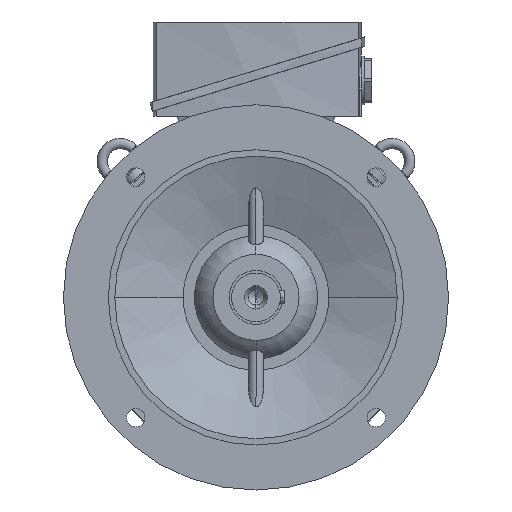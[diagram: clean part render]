
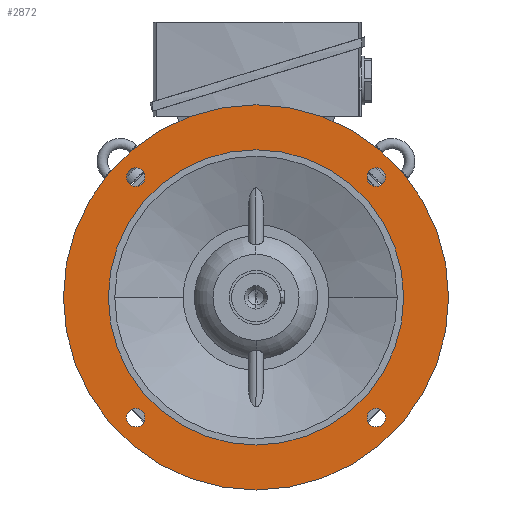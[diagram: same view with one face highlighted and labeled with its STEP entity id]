
A CAD part, left-side view. The second image highlights one B-rep face of the part: STEP entity #2872.
In plain terms, the highlighted planar face has unit normal (-1, 0, 0).
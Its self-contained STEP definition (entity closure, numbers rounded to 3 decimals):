
#2872=ADVANCED_FACE('',(#5811,#5812,#5813,#5814,#5815,#5816),#5817,.T.);
#5811=FACE_BOUND('',#8752,.T.);
#5812=FACE_BOUND('',#8753,.T.);
#5813=FACE_BOUND('',#8754,.T.);
#5814=FACE_BOUND('',#8755,.T.);
#5815=FACE_OUTER_BOUND('',#8756,.T.);
#5816=FACE_BOUND('',#8757,.T.);
#5817=PLANE('',#8758);
#8752=EDGE_LOOP('',(#17724,#17725));
#8753=EDGE_LOOP('',(#17726,#17727));
#8754=EDGE_LOOP('',(#17728,#17729));
#8755=EDGE_LOOP('',(#17730,#17731));
#8756=EDGE_LOOP('',(#17732,#17733));
#8757=EDGE_LOOP('',(#17734,#17735));
#8758=AXIS2_PLACEMENT_3D('',#17736,#17737,#17738);
#17724=ORIENTED_EDGE('',*,*,#21268,.T.);
#17725=ORIENTED_EDGE('',*,*,#18006,.T.);
#17726=ORIENTED_EDGE('',*,*,#21271,.T.);
#17727=ORIENTED_EDGE('',*,*,#18001,.T.);
#17728=ORIENTED_EDGE('',*,*,#21274,.T.);
#17729=ORIENTED_EDGE('',*,*,#17996,.T.);
#17730=ORIENTED_EDGE('',*,*,#21277,.T.);
#17731=ORIENTED_EDGE('',*,*,#17991,.T.);
#17732=ORIENTED_EDGE('',*,*,#17969,.F.);
#17733=ORIENTED_EDGE('',*,*,#21332,.F.);
#17734=ORIENTED_EDGE('',*,*,#17976,.T.);
#17735=ORIENTED_EDGE('',*,*,#21330,.T.);
#17736=CARTESIAN_POINT('',(-50.5,132.5,0.0));
#17737=DIRECTION('',(-1.0,0.0,0.0));
#17738=DIRECTION('',(0.0,-1.0,0.0));
#17969=EDGE_CURVE('',#21615,#21618,#21619,.T.);
#17976=EDGE_CURVE('',#21625,#21629,#21631,.T.);
#17991=EDGE_CURVE('',#21658,#21655,#21659,.T.);
#17996=EDGE_CURVE('',#21667,#21664,#21668,.T.);
#18001=EDGE_CURVE('',#21676,#21673,#21677,.T.);
#18006=EDGE_CURVE('',#21685,#21682,#21686,.T.);
#21268=EDGE_CURVE('',#21682,#21685,#26521,.T.);
#21271=EDGE_CURVE('',#21673,#21676,#26524,.T.);
#21274=EDGE_CURVE('',#21664,#21667,#26527,.T.);
#21277=EDGE_CURVE('',#21655,#21658,#26530,.T.);
#21330=EDGE_CURVE('',#21629,#21625,#26597,.T.);
#21332=EDGE_CURVE('',#21618,#21615,#26599,.T.);
#21615=VERTEX_POINT('',#27224);
#21618=VERTEX_POINT('',#27228);
#21619=CIRCLE('',#27229,150.0);
#21625=VERTEX_POINT('',#27236);
#21629=VERTEX_POINT('',#27241);
#21631=CIRCLE('',#27244,115.0);
#21655=VERTEX_POINT('',#27286);
#21658=VERTEX_POINT('',#27290);
#21659=CIRCLE('',#27291,7.25);
#21664=VERTEX_POINT('',#27297);
#21667=VERTEX_POINT('',#27301);
#21668=CIRCLE('',#27302,7.25);
#21673=VERTEX_POINT('',#27308);
#21676=VERTEX_POINT('',#27312);
#21677=CIRCLE('',#27313,7.25);
#21682=VERTEX_POINT('',#27319);
#21685=VERTEX_POINT('',#27323);
#21686=CIRCLE('',#27324,7.25);
#26521=CIRCLE('',#41371,7.25);
#26524=CIRCLE('',#41374,7.25);
#26527=CIRCLE('',#41377,7.25);
#26530=CIRCLE('',#41380,7.25);
#26597=CIRCLE('',#41521,115.0);
#26599=CIRCLE('',#41523,150.0);
#27224=CARTESIAN_POINT('',(-50.5,150.0,0.0));
#27228=CARTESIAN_POINT('',(-50.5,-150.0,0.));
#27229=AXIS2_PLACEMENT_3D('',#41699,#41700,#41701);
#27236=CARTESIAN_POINT('',(-50.5,115.0,0.0));
#27241=CARTESIAN_POINT('',(-50.5,-115.0,0.));
#27244=AXIS2_PLACEMENT_3D('',#41711,#41712,#41713);
#27286=CARTESIAN_POINT('',(-50.5,-98.818,98.818));
#27290=CARTESIAN_POINT('',(-50.5,-88.565,88.565));
#27291=AXIS2_PLACEMENT_3D('',#41739,#41740,#41741);
#27297=CARTESIAN_POINT('',(-50.5,98.818,98.818));
#27301=CARTESIAN_POINT('',(-50.5,88.565,88.565));
#27302=AXIS2_PLACEMENT_3D('',#41747,#41748,#41749);
#27308=CARTESIAN_POINT('',(-50.5,98.818,-98.818));
#27312=CARTESIAN_POINT('',(-50.5,88.565,-88.565));
#27313=AXIS2_PLACEMENT_3D('',#41755,#41756,#41757);
#27319=CARTESIAN_POINT('',(-50.5,-98.818,-98.818));
#27323=CARTESIAN_POINT('',(-50.5,-88.565,-88.565));
#27324=AXIS2_PLACEMENT_3D('',#41763,#41764,#41765);
#41371=AXIS2_PLACEMENT_3D('',#44721,#44722,#44723);
#41374=AXIS2_PLACEMENT_3D('',#44727,#44728,#44729);
#41377=AXIS2_PLACEMENT_3D('',#44733,#44734,#44735);
#41380=AXIS2_PLACEMENT_3D('',#44739,#44740,#44741);
#41521=AXIS2_PLACEMENT_3D('',#44783,#44784,#44785);
#41523=AXIS2_PLACEMENT_3D('',#44786,#44787,#44788);
#41699=CARTESIAN_POINT('',(-50.5,0.0,0.0));
#41700=DIRECTION('',(1.0,0.0,0.0));
#41701=DIRECTION('',(0.0,1.0,0.0));
#41711=CARTESIAN_POINT('',(-50.5,0.0,0.0));
#41712=DIRECTION('',(1.0,0.0,0.0));
#41713=DIRECTION('',(0.0,1.0,0.0));
#41739=CARTESIAN_POINT('',(-50.5,-93.692,93.692));
#41740=DIRECTION('',(1.0,0.0,-0.0));
#41741=DIRECTION('',(0.0,-0.707,0.707));
#41747=CARTESIAN_POINT('',(-50.5,93.692,93.692));
#41748=DIRECTION('',(1.0,0.0,-0.0));
#41749=DIRECTION('',(0.0,0.707,0.707));
#41755=CARTESIAN_POINT('',(-50.5,93.692,-93.692));
#41756=DIRECTION('',(1.0,-0.0,0.0));
#41757=DIRECTION('',(0.0,0.707,-0.707));
#41763=CARTESIAN_POINT('',(-50.5,-93.692,-93.692));
#41764=DIRECTION('',(1.0,0.0,0.0));
#41765=DIRECTION('',(0.0,-0.707,-0.707));
#44721=CARTESIAN_POINT('',(-50.5,-93.692,-93.692));
#44722=DIRECTION('',(1.0,0.0,0.0));
#44723=DIRECTION('',(0.0,-0.707,-0.707));
#44727=CARTESIAN_POINT('',(-50.5,93.692,-93.692));
#44728=DIRECTION('',(1.0,-0.0,0.0));
#44729=DIRECTION('',(0.0,0.707,-0.707));
#44733=CARTESIAN_POINT('',(-50.5,93.692,93.692));
#44734=DIRECTION('',(1.0,0.0,-0.0));
#44735=DIRECTION('',(0.0,0.707,0.707));
#44739=CARTESIAN_POINT('',(-50.5,-93.692,93.692));
#44740=DIRECTION('',(1.0,0.0,-0.0));
#44741=DIRECTION('',(0.0,-0.707,0.707));
#44783=CARTESIAN_POINT('',(-50.5,0.0,0.0));
#44784=DIRECTION('',(1.0,0.0,0.0));
#44785=DIRECTION('',(0.0,1.0,0.0));
#44786=CARTESIAN_POINT('',(-50.5,0.0,0.0));
#44787=DIRECTION('',(1.0,0.0,0.0));
#44788=DIRECTION('',(0.0,1.0,0.0));
